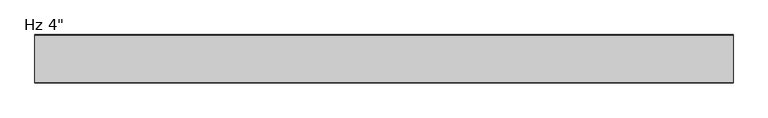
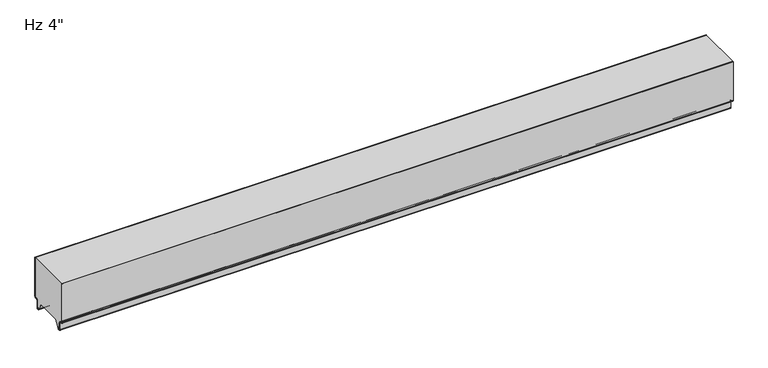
"""IFC4 building model written with IfcOpenShell, lengths in millimetres: plate geometry."""

from ifc_helpers import new_model, si_unit, frame, origin, place, context, project, spatial, polyline, circle_curve, source, transform, mapped, element, save
from ifc_brep_helpers import plane_surface, cylinder_surface, revolved_surface, advanced_brep


def plate_484589e4(model_context):
    return source(origin(), model_context, "Body", "AdvancedBrep", [
        advanced_brep(
        [(-730.0, -2.9776189, 3.8501063), (-730.0, -1.0007088, 5.8270163), (-730.0, -1.0007088, 94.95), (-730.0, 0.0, 94.95), (-730.0, 0.0, 5.8272211), (-730.0, -2.977286, 2.8499526), (-730.0, -5.2691698, 2.8499526), (-730.0, -8.2464384, -0.1273159), (-730.0, -8.2464384, -15.7237419), (-730.0, -9.8343149, -17.3116185), (-730.0, -12.9058636, -17.3116185), (-730.0, -14.4937401, -15.7237419), (-730.0, -14.4937401, -13.3687064), (-730.0, -13.4937365, -13.3687064), (-730.0, -13.4937365, -15.7237374), (-730.0, -12.9058654, -16.3116086), (-730.0, -9.834334, -16.3116086), (-730.0, -9.2464768, -15.7237514), (-730.0, -9.2464768, -0.1272391), (-730.0, -5.2691315, 3.8501063), (730.0, -2.9776189, 3.8501063), (730.0, -5.2691315, 3.8501063), (730.0, -9.2464768, -0.1272391), (730.0, -9.2464768, -15.7237514), (730.0, -9.834334, -16.3116086), (730.0, -12.9058654, -16.3116086), (730.0, -13.4937365, -15.7237374), (730.0, -13.4937365, -13.3687064), (730.0, -14.4937401, -13.3687064), (730.0, -14.4937401, -15.7237419), (730.0, -12.9058636, -17.3116185), (730.0, -9.8343149, -17.3116185), (730.0, -8.2464384, -15.7237419), (730.0, -8.2464384, -0.1273159), (730.0, -5.2691698, 2.8499526), (730.0, -2.977286, 2.8499526), (730.0, -1.75e-05, 5.8272211), (730.0, 0.0, 94.95), (730.0, -1.0007088, 94.95), (730.0, -1.0007088, 5.8270163)],
        [
            (0, 1, circle_curve(frame((-730.0, -2.9776189, 5.8270163), z_axis=(1.0, 0.0, 0.0), x_axis=(0.0, 1.0, 0.0)), 1.9769101)),
            (1, 2),
            (2, 3),
            (3, 4),
            (4, 5, circle_curve(frame((-730.0, -2.977286, 5.8272211), z_axis=(-1.0, 0.0, 0.0), x_axis=(0.0, 1.0, 0.0)), 2.9772685)),
            (5, 6),
            (6, 7, circle_curve(frame((-730.0, -5.2691698, -0.1273159), z_axis=(1.0, 0.0, 0.0), x_axis=(0.0, 1.0, 0.0)), 2.9772685)),
            (7, 8),
            (8, 9, circle_curve(frame((-730.0, -9.8343149, -15.7237419), z_axis=(-1.0, 0.0, 0.0), x_axis=(0.0, 1.0, 0.0)), 1.5878765)),
            (9, 10),
            (10, 11, circle_curve(frame((-730.0, -12.9058636, -15.7237419), z_axis=(-1.0, 0.0, 0.0), x_axis=(0.0, 1.0, 0.0)), 1.5878765)),
            (11, 12),
            (12, 13),
            (13, 14),
            (14, 15, circle_curve(frame((-730.0, -12.9058654, -15.7237374), z_axis=(1.0, 0.0, 0.0), x_axis=(0.0, 1.0, 0.0)), 0.5878711)),
            (15, 16),
            (16, 17, circle_curve(frame((-730.0, -9.834334, -15.7237514), z_axis=(1.0, 0.0, 0.0), x_axis=(0.0, 1.0, 0.0)), 0.5878572)),
            (17, 18),
            (18, 19, circle_curve(frame((-730.0, -5.2691315, -0.1272391), z_axis=(-1.0, 0.0, 0.0), x_axis=(0.0, 1.0, 0.0)), 3.9773454)),
            (19, 0),
            (20, 21),
            (21, 22, circle_curve(frame((730.0, -5.2691315, -0.1272391), z_axis=(1.0, 0.0, 0.0), x_axis=(0.0, 1.0, 0.0)), 3.9773454)),
            (22, 23),
            (23, 24, circle_curve(frame((730.0, -9.834334, -15.7237514), z_axis=(-1.0, 0.0, 0.0), x_axis=(0.0, 1.0, 0.0)), 0.5878572)),
            (24, 25),
            (25, 26, circle_curve(frame((730.0, -12.9058654, -15.7237374), z_axis=(-1.0, 0.0, 0.0), x_axis=(0.0, 1.0, 0.0)), 0.5878711)),
            (26, 27),
            (27, 28),
            (28, 29),
            (29, 30, circle_curve(frame((730.0, -12.9058636, -15.7237419), z_axis=(1.0, 0.0, 0.0), x_axis=(0.0, 1.0, 0.0)), 1.5878765)),
            (30, 31),
            (31, 32, circle_curve(frame((730.0, -9.8343149, -15.7237419), z_axis=(1.0, 0.0, 0.0), x_axis=(0.0, 1.0, 0.0)), 1.5878765)),
            (32, 33),
            (33, 34, circle_curve(frame((730.0, -5.2691698, -0.1273159), z_axis=(-1.0, 0.0, 0.0), x_axis=(0.0, 1.0, 0.0)), 2.9772685)),
            (34, 35),
            (35, 36, circle_curve(frame((730.0, -2.977286, 5.8272211), z_axis=(1.0, 0.0, 0.0), x_axis=(0.0, 1.0, 0.0)), 2.9772685)),
            (36, 37),
            (37, 38),
            (38, 39),
            (39, 20, circle_curve(frame((730.0, -2.9776189, 5.8270163), z_axis=(-1.0, 0.0, 0.0), x_axis=(0.0, 1.0, 0.0)), 1.9769101)),
            (2, 38),
            (37, 3),
            (19, 21),
            (20, 0),
            (18, 22),
            (17, 23),
            (16, 24),
            (15, 25),
            (14, 26),
            (13, 27),
            (12, 28),
            (11, 29),
            (10, 30),
            (9, 31),
            (8, 32),
            (7, 33),
            (6, 34),
            (5, 35),
            (4, 36),
            (1, 39),
        ],
        [
            plane_surface(frame((-730.0, 0.0, 576.2625), z_axis=(-1.0, 0.0, 0.0), x_axis=(0.0, 1.0, 0.0))),
            plane_surface(frame((730.0, 0.0, 576.2625), z_axis=(1.0, 0.0, 0.0), x_axis=(0.0, 1.0, 0.0))),
            plane_surface(frame((730.0, 10.0, 94.95), z_axis=(0.0, 0.0, 1.0), x_axis=(-1.0, 0.0, 0.0))),
            plane_surface(frame((-730.0, -2.9776189, 3.8501063), z_axis=(0.0, 0.0, 1.0), x_axis=(1.0, 0.0, 0.0))),
            cylinder_surface(frame((-730.0, -5.2691315, -0.1272391), z_axis=(-1.0, 0.0, 0.0), x_axis=(0.0, 1.0, 0.0)), 3.9773454),
            plane_surface(frame((-730.0, -9.2464768, -0.1272391), z_axis=(0.0, -1.0, 0.0), x_axis=(1.0, 0.0, 0.0))),
            revolved_surface(polyline([(730.0, -9.2464768, -15.7237514), (-730.0, -9.2464768, -15.7237514)]), (-730.0, -9.834334, -15.7237514), (1.0, 0.0, 0.0)),
            plane_surface(frame((-730.0, -9.834334, -16.3116086), z_axis=(0.0, 0.0, 1.0), x_axis=(1.0, 0.0, 0.0))),
            revolved_surface(polyline([(730.0, -12.3179943, -15.7237374), (-730.0, -12.3179943, -15.7237374)]), (-730.0, -12.9058654, -15.7237374), (1.0, 0.0, 0.0)),
            plane_surface(frame((-730.0, -13.4937365, -15.7237374), z_axis=(0.0, 1.0, 0.0), x_axis=(1.0, 0.0, 0.0))),
            plane_surface(frame((-730.0, -13.4937365, -13.3687064), z_axis=(0.0, 0.0, 1.0), x_axis=(1.0, 0.0, 0.0))),
            plane_surface(frame((-730.0, -14.4937401, -13.3687064), z_axis=(0.0, -1.0, 0.0), x_axis=(1.0, 0.0, 0.0))),
            cylinder_surface(frame((-730.0, -12.9058636, -15.7237419), z_axis=(-1.0, 0.0, 0.0), x_axis=(0.0, 1.0, 0.0)), 1.5878765),
            plane_surface(frame((-730.0, -12.9058636, -17.3116185), z_axis=(0.0, 0.0, -1.0), x_axis=(1.0, 0.0, 0.0))),
            cylinder_surface(frame((-730.0, -9.8343149, -15.7237419), z_axis=(-1.0, 0.0, 0.0), x_axis=(0.0, 1.0, 0.0)), 1.5878765),
            plane_surface(frame((-730.0, -8.2464384, -15.7237419), z_axis=(0.0, 1.0, 0.0), x_axis=(1.0, 0.0, 0.0))),
            revolved_surface(polyline([(730.0, -2.2919013, -0.1273159), (-730.0, -2.2919013, -0.1273159)]), (-730.0, -5.2691698, -0.1273159), (1.0, 0.0, 0.0)),
            plane_surface(frame((-730.0, -5.2691698, 2.8499526), z_axis=(0.0, 0.0, -1.0), x_axis=(1.0, 0.0, 0.0))),
            cylinder_surface(frame((-730.0, -2.977286, 5.8272211), z_axis=(-1.0, 0.0, 0.0), x_axis=(0.0, 1.0, 0.0)), 2.9772685),
            plane_surface(frame((-730.0, 0.0, 5.8272211), z_axis=(0.0, 1.0, 0.0), x_axis=(1.0, 0.0, 0.0))),
            plane_surface(frame((-730.0, -1.0007088, 1150.812837), z_axis=(0.0, -1.0, 0.0), x_axis=(1.0, 0.0, 0.0))),
            revolved_surface(polyline([(730.0, -1.0007088, 5.8270163), (-730.0, -1.0007088, 5.8270163)]), (-730.0, -2.9776189, 5.8270163), (1.0, 0.0, 0.0)),
        ],
        [
            (0, [[1, 2, 3, 4, 5, 6, 7, 8, 9, 10, 11, 12, 13, 14, 15, 16, 17, 18, 19, 20]]),
            (1, [[21, 22, 23, 24, 25, 26, 27, 28, 29, 30, 31, 32, 33, 34, 35, 36, 37, 38, 39, 40]]),
            (2, [[41, -38, 42, -3]]),
            (3, [[43, -21, 44, -20]]),
            (4, [[45, -22, -43, -19]]),
            (5, [[46, -23, -45, -18]]),
            (6, [[47, -24, -46, -17]]),
            (7, [[48, -25, -47, -16]]),
            (8, [[49, -26, -48, -15]]),
            (9, [[50, -27, -49, -14]]),
            (10, [[51, -28, -50, -13]]),
            (11, [[52, -29, -51, -12]]),
            (12, [[53, -30, -52, -11]]),
            (13, [[54, -31, -53, -10]]),
            (14, [[55, -32, -54, -9]]),
            (15, [[56, -33, -55, -8]]),
            (16, [[57, -34, -56, -7]]),
            (17, [[58, -35, -57, -6]]),
            (18, [[59, -36, -58, -5]]),
            (19, [[-4, -42, -37, -59]]),
            (20, [[-39, -41, -2, 60]]),
            (21, [[-44, -40, -60, -1]]),
        ],
    ),
        advanced_brep(
        [(-730.0, -98.6223811, 3.8501063), (-730.0, -96.3308685, 3.8501063), (-730.0, -92.3535232, -0.1272391), (-730.0, -92.3535232, -15.7237514), (-730.0, -91.765666, -16.3116086), (-730.0, -88.6941346, -16.3116086), (-730.0, -88.1062635, -15.7237374), (-730.0, -88.1062635, -13.3687064), (-730.0, -87.1062599, -13.3687064), (-730.0, -87.1062599, -15.7237419), (-730.0, -88.6941364, -17.3116185), (-730.0, -91.7656851, -17.3116185), (-730.0, -93.3535616, -15.7237419), (-730.0, -93.3535616, -0.1273159), (-730.0, -96.3308302, 2.8499526), (-730.0, -98.622714, 2.8499526), (-730.0, -101.5999825, 5.8272211), (-730.0, -101.6, 94.95), (-730.0, -100.5992912, 94.95), (-730.0, -100.5992912, 5.8270163), (730.0, -98.6223811, 3.8501063), (730.0, -100.5992912, 5.8270163), (730.0, -100.5992912, 94.95), (730.0, -101.6, 94.95), (730.0, -101.6, 5.8272211), (730.0, -98.622714, 2.8499526), (730.0, -96.3308302, 2.8499526), (730.0, -93.3535616, -0.1273159), (730.0, -93.3535616, -15.7237419), (730.0, -91.7656851, -17.3116185), (730.0, -88.6941364, -17.3116185), (730.0, -87.1062599, -15.7237419), (730.0, -87.1062599, -13.3687064), (730.0, -88.1062635, -13.3687064), (730.0, -88.1062635, -15.7237374), (730.0, -88.6941346, -16.3116086), (730.0, -91.765666, -16.3116086), (730.0, -92.3535232, -15.7237514), (730.0, -92.3535232, -0.1272391), (730.0, -96.3308685, 3.8501063)],
        [
            (0, 1),
            (1, 2, circle_curve(frame((-730.0, -96.3308685, -0.1272391), z_axis=(-1.0, 0.0, 0.0), x_axis=(0.0, 0.0, -1.0)), 3.9773454)),
            (2, 3),
            (3, 4, circle_curve(frame((-730.0, -91.765666, -15.7237514), z_axis=(1.0, 0.0, 0.0), x_axis=(0.0, 0.0, -1.0)), 0.5878572)),
            (4, 5),
            (5, 6, circle_curve(frame((-730.0, -88.6941346, -15.7237374), z_axis=(1.0, 0.0, 0.0), x_axis=(0.0, 0.0, -1.0)), 0.5878711)),
            (6, 7),
            (7, 8),
            (8, 9),
            (9, 10, circle_curve(frame((-730.0, -88.6941364, -15.7237419), z_axis=(-1.0, 0.0, 0.0), x_axis=(0.0, 0.0, -1.0)), 1.5878765)),
            (10, 11),
            (11, 12, circle_curve(frame((-730.0, -91.7656851, -15.7237419), z_axis=(-1.0, 0.0, 0.0), x_axis=(0.0, 0.0, -1.0)), 1.5878765)),
            (12, 13),
            (13, 14, circle_curve(frame((-730.0, -96.3308302, -0.1273159), z_axis=(1.0, 0.0, 0.0), x_axis=(0.0, 0.0, -1.0)), 2.9772685)),
            (14, 15),
            (15, 16, circle_curve(frame((-730.0, -98.622714, 5.8272211), z_axis=(-1.0, 0.0, 0.0), x_axis=(0.0, 0.0, -1.0)), 2.9772685)),
            (16, 17),
            (17, 18),
            (18, 19),
            (19, 0, circle_curve(frame((-730.0, -98.6223811, 5.8270163), z_axis=(1.0, 0.0, 0.0), x_axis=(0.0, 0.0, -1.0)), 1.9769101)),
            (20, 21, circle_curve(frame((730.0, -98.6223811, 5.8270163), z_axis=(-1.0, 0.0, 0.0), x_axis=(0.0, 0.0, -1.0)), 1.9769101)),
            (21, 22),
            (22, 23),
            (23, 24),
            (24, 25, circle_curve(frame((730.0, -98.622714, 5.8272211), z_axis=(1.0, 0.0, 0.0), x_axis=(0.0, 0.0, -1.0)), 2.9772685)),
            (25, 26),
            (26, 27, circle_curve(frame((730.0, -96.3308302, -0.1273159), z_axis=(-1.0, 0.0, 0.0), x_axis=(0.0, 0.0, -1.0)), 2.9772685)),
            (27, 28),
            (28, 29, circle_curve(frame((730.0, -91.7656851, -15.7237419), z_axis=(1.0, 0.0, 0.0), x_axis=(0.0, 0.0, -1.0)), 1.5878765)),
            (29, 30),
            (30, 31, circle_curve(frame((730.0, -88.6941364, -15.7237419), z_axis=(1.0, 0.0, 0.0), x_axis=(0.0, 0.0, -1.0)), 1.5878765)),
            (31, 32),
            (32, 33),
            (33, 34),
            (34, 35, circle_curve(frame((730.0, -88.6941346, -15.7237374), z_axis=(-1.0, 0.0, 0.0), x_axis=(0.0, 0.0, -1.0)), 0.5878711)),
            (35, 36),
            (36, 37, circle_curve(frame((730.0, -91.765666, -15.7237514), z_axis=(-1.0, 0.0, 0.0), x_axis=(0.0, 0.0, -1.0)), 0.5878572)),
            (37, 38),
            (38, 39, circle_curve(frame((730.0, -96.3308685, -0.1272391), z_axis=(1.0, 0.0, 0.0), x_axis=(0.0, 0.0, -1.0)), 3.9773454)),
            (39, 20),
            (17, 23),
            (22, 18),
            (19, 21),
            (20, 0),
            (16, 24),
            (15, 25),
            (14, 26),
            (13, 27),
            (12, 28),
            (11, 29),
            (10, 30),
            (9, 31),
            (8, 32),
            (7, 33),
            (6, 34),
            (5, 35),
            (4, 36),
            (3, 37),
            (2, 38),
            (1, 39),
        ],
        [
            plane_surface(frame((-730.0, -101.6, 576.2625), z_axis=(-1.0, 0.0, 0.0), x_axis=(0.0, -1.0, 0.0))),
            plane_surface(frame((730.0, -101.6, 576.2625), z_axis=(1.0, 0.0, 0.0), x_axis=(0.0, -1.0, 0.0))),
            plane_surface(frame((730.0, 10.0, 94.95), z_axis=(0.0, 0.0, 1.0), x_axis=(-1.0, 0.0, 0.0))),
            revolved_surface(polyline([(730.0, -98.6223811, 3.8501062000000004), (-730.0, -98.6223811, 3.8501062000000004)]), (-730.0, -98.6223811, 5.8270163), (1.0, 0.0, 0.0)),
            plane_surface(frame((-730.0, -100.5992912, 5.8270163), z_axis=(0.0, 1.0, 0.0), x_axis=(1.0, 0.0, 0.0))),
            plane_surface(frame((-730.0, -101.6, 1150.8100652), z_axis=(0.0, -1.0, 0.0), x_axis=(1.0, 0.0, 0.0))),
            cylinder_surface(frame((-730.0, -98.622714, 5.8272211), z_axis=(-1.0, 0.0, 0.0), x_axis=(0.0, 0.0, -1.0)), 2.9772685),
            plane_surface(frame((-730.0, -98.622714, 2.8499526), z_axis=(0.0, 0.0, -1.0), x_axis=(1.0, 0.0, 0.0))),
            revolved_surface(polyline([(730.0, -96.3308302, -3.1045844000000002), (-730.0, -96.3308302, -3.1045844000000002)]), (-730.0, -96.3308302, -0.1273159), (1.0, 0.0, 0.0)),
            plane_surface(frame((-730.0, -93.3535616, -0.1273159), z_axis=(0.0, -1.0, 0.0), x_axis=(1.0, 0.0, 0.0))),
            cylinder_surface(frame((-730.0, -91.7656851, -15.7237419), z_axis=(-1.0, 0.0, 0.0), x_axis=(0.0, 0.0, -1.0)), 1.5878765),
            plane_surface(frame((-730.0, -91.7656851, -17.3116185), z_axis=(0.0, 0.0, -1.0), x_axis=(1.0, 0.0, 0.0))),
            cylinder_surface(frame((-730.0, -88.6941364, -15.7237419), z_axis=(-1.0, 0.0, 0.0), x_axis=(0.0, 0.0, -1.0)), 1.5878765),
            plane_surface(frame((-730.0, -87.1062599, -15.7237419), z_axis=(0.0, 1.0, 0.0), x_axis=(1.0, 0.0, 0.0))),
            plane_surface(frame((-730.0, -87.1062599, -13.3687064), z_axis=(0.0, 0.0, 1.0), x_axis=(1.0, 0.0, 0.0))),
            plane_surface(frame((-730.0, -88.1062635, -13.3687064), z_axis=(0.0, -1.0, 0.0), x_axis=(1.0, 0.0, 0.0))),
            revolved_surface(polyline([(730.0, -88.6941346, -16.3116085), (-730.0, -88.6941346, -16.3116085)]), (-730.0, -88.6941346, -15.7237374), (1.0, 0.0, 0.0)),
            plane_surface(frame((-730.0, -88.6941346, -16.3116086), z_axis=(0.0, 0.0, 1.0), x_axis=(1.0, 0.0, 0.0))),
            revolved_surface(polyline([(730.0, -91.765666, -16.3116086), (-730.0, -91.765666, -16.3116086)]), (-730.0, -91.765666, -15.7237514), (1.0, 0.0, 0.0)),
            plane_surface(frame((-730.0, -92.3535232, -15.7237514), z_axis=(0.0, 1.0, 0.0), x_axis=(1.0, 0.0, 0.0))),
            cylinder_surface(frame((-730.0, -96.3308685, -0.1272391), z_axis=(-1.0, 0.0, 0.0), x_axis=(0.0, 0.0, -1.0)), 3.9773454),
            plane_surface(frame((-730.0, -96.3308685, 3.8501063), z_axis=(0.0, 0.0, 1.0), x_axis=(1.0, 0.0, 0.0))),
        ],
        [
            (0, [[1, 2, 3, 4, 5, 6, 7, 8, 9, 10, 11, 12, 13, 14, 15, 16, 17, 18, 19, 20]]),
            (1, [[21, 22, 23, 24, 25, 26, 27, 28, 29, 30, 31, 32, 33, 34, 35, 36, 37, 38, 39, 40]]),
            (2, [[41, -23, 42, -18]]),
            (3, [[43, -21, 44, -20]]),
            (4, [[-19, -42, -22, -43]]),
            (5, [[-24, -41, -17, 45]]),
            (6, [[46, -25, -45, -16]]),
            (7, [[47, -26, -46, -15]]),
            (8, [[48, -27, -47, -14]]),
            (9, [[49, -28, -48, -13]]),
            (10, [[50, -29, -49, -12]]),
            (11, [[51, -30, -50, -11]]),
            (12, [[52, -31, -51, -10]]),
            (13, [[53, -32, -52, -9]]),
            (14, [[54, -33, -53, -8]]),
            (15, [[55, -34, -54, -7]]),
            (16, [[56, -35, -55, -6]]),
            (17, [[57, -36, -56, -5]]),
            (18, [[58, -37, -57, -4]]),
            (19, [[59, -38, -58, -3]]),
            (20, [[60, -39, -59, -2]]),
            (21, [[-44, -40, -60, -1]]),
        ],
    ),
        advanced_brep(
        [(-730.0, -98.6227194, 3.8499499), (-730.0, -100.5999935, 5.8272239), (-730.0, -100.6, 94.95), (-730.0, -1.0, 94.95), (-730.0, -1.0, 5.8272239), (-730.0, -2.9772806, 3.8499499), (-730.0, -5.2691705, 3.8499499), (-730.0, -9.2464377, -0.1273173), (-730.0, -9.2464377, -15.7237417), (-730.0, -9.8343146, -16.3116186), (-730.0, -12.9058635, -16.3116186), (-730.0, -13.4937402, -15.723742), (-730.0, -13.4937402, -13.3687064), (-730.0, -14.4937402, -13.3687064), (-730.0, -14.4937402, -15.6582851), (-730.0, -23.7509135, 0.0), (-730.0, -77.8490865, 0.0), (-730.0, -87.1062598, -15.6582851), (-730.0, -87.1062598, -13.3687064), (-730.0, -88.1062598, -13.3687064), (-730.0, -88.1062598, -15.723742), (-730.0, -88.6941365, -16.3116186), (-730.0, -91.7656854, -16.3116186), (-730.0, -92.3535623, -15.7237417), (-730.0, -92.3535623, -0.1273173), (-730.0, -96.3308295, 3.8499499), (730.0, -98.6227194, 3.8499499), (730.0, -96.3308295, 3.8499499), (730.0, -92.3535623, -0.1273173), (730.0, -92.3535623, -15.7237417), (730.0, -91.7656854, -16.3116186), (730.0, -88.6941365, -16.3116186), (730.0, -88.1062598, -15.723742), (730.0, -88.1062598, -13.3687064), (730.0, -87.1062598, -13.3687064), (730.0, -87.1062598, -15.6582851), (730.0, -77.8490865, 0.0), (730.0, -23.7509179, 0.0), (730.0, -14.4937402, -15.6582851), (730.0, -14.4937402, -13.3687064), (730.0, -13.4937402, -13.3687064), (730.0, -13.4937402, -15.723742), (730.0, -12.9058635, -16.3116186), (730.0, -9.8343146, -16.3116186), (730.0, -9.2464377, -15.7237417), (730.0, -9.2464377, -0.1273173), (730.0, -5.2691705, 3.8499499), (730.0, -2.9772806, 3.8499499), (730.0, -1.0000065, 5.8272239), (730.0, -1.0, 94.95), (730.0, -100.6, 94.95), (730.0, -100.6, 5.8272239)],
        [
            (0, 1, circle_curve(frame((-730.0, -98.6227194, 5.8272239), z_axis=(-1.0, 0.0, 0.0), x_axis=(0.0, 0.0, -1.0)), 1.977274)),
            (1, 2),
            (2, 3),
            (3, 4),
            (4, 5, circle_curve(frame((-730.0, -2.9772806, 5.8272239), z_axis=(-1.0, 0.0, 0.0), x_axis=(0.0, 1.0, 0.0)), 1.977274)),
            (5, 6),
            (6, 7, circle_curve(frame((-730.0, -5.2691705, -0.1273173), z_axis=(1.0, 0.0, 0.0), x_axis=(0.0, 1.0, 0.0)), 3.9772671)),
            (7, 8),
            (8, 9, circle_curve(frame((-730.0, -9.8343146, -15.7237417), z_axis=(-1.0, 0.0, 0.0), x_axis=(0.0, 1.0, 0.0)), 0.5878769)),
            (9, 10),
            (10, 11, circle_curve(frame((-730.0, -12.9058635, -15.723742), z_axis=(-1.0, 0.0, 0.0), x_axis=(0.0, 1.0, 0.0)), 0.5878766)),
            (11, 12),
            (12, 13),
            (13, 14),
            (14, 15),
            (15, 16),
            (16, 17),
            (17, 18),
            (18, 19),
            (19, 20),
            (20, 21, circle_curve(frame((-730.0, -88.6941365, -15.723742), z_axis=(-1.0, 0.0, 0.0), x_axis=(0.0, 0.0, -1.0)), 0.5878766)),
            (21, 22),
            (22, 23, circle_curve(frame((-730.0, -91.7656854, -15.7237417), z_axis=(-1.0, 0.0, 0.0), x_axis=(0.0, 0.0, -1.0)), 0.5878769)),
            (23, 24),
            (24, 25, circle_curve(frame((-730.0, -96.3308295, -0.1273173), z_axis=(1.0, 0.0, 0.0), x_axis=(0.0, 0.0, -1.0)), 3.9772671)),
            (25, 0),
            (26, 27),
            (27, 28, circle_curve(frame((730.0, -96.3308295, -0.1273173), z_axis=(-1.0, 0.0, 0.0), x_axis=(0.0, 0.0, -1.0)), 3.9772671)),
            (28, 29),
            (29, 30, circle_curve(frame((730.0, -91.7656854, -15.7237417), z_axis=(1.0, 0.0, 0.0), x_axis=(0.0, 0.0, -1.0)), 0.5878769)),
            (30, 31),
            (31, 32, circle_curve(frame((730.0, -88.6941365, -15.723742), z_axis=(1.0, 0.0, 0.0), x_axis=(0.0, 0.0, -1.0)), 0.5878766)),
            (32, 33),
            (33, 34),
            (34, 35),
            (35, 36),
            (36, 37),
            (37, 38),
            (38, 39),
            (39, 40),
            (40, 41),
            (41, 42, circle_curve(frame((730.0, -12.9058635, -15.723742), z_axis=(1.0, 0.0, 0.0), x_axis=(0.0, 1.0, 0.0)), 0.5878766)),
            (42, 43),
            (43, 44, circle_curve(frame((730.0, -9.8343146, -15.7237417), z_axis=(1.0, 0.0, 0.0), x_axis=(0.0, 1.0, 0.0)), 0.5878769)),
            (44, 45),
            (45, 46, circle_curve(frame((730.0, -5.2691705, -0.1273173), z_axis=(-1.0, 0.0, 0.0), x_axis=(0.0, 1.0, 0.0)), 3.9772671)),
            (46, 47),
            (47, 48, circle_curve(frame((730.0, -2.9772806, 5.8272239), z_axis=(1.0, 0.0, 0.0), x_axis=(0.0, 1.0, 0.0)), 1.977274)),
            (48, 49),
            (49, 50),
            (50, 51),
            (51, 26, circle_curve(frame((730.0, -98.6227194, 5.8272239), z_axis=(1.0, 0.0, 0.0), x_axis=(0.0, 0.0, -1.0)), 1.977274)),
            (36, 16),
            (15, 37),
            (2, 50),
            (49, 3),
            (25, 27),
            (26, 0),
            (24, 28),
            (23, 29),
            (22, 30),
            (21, 31),
            (20, 32),
            (19, 33),
            (18, 34),
            (17, 35),
            (1, 51),
            (4, 48),
            (47, 5),
            (14, 38),
            (13, 39),
            (12, 40),
            (11, 41),
            (10, 42),
            (9, 43),
            (8, 44),
            (7, 45),
            (6, 46),
        ],
        [
            plane_surface(frame((-730.0, -100.6, 576.2625), z_axis=(-1.0, 0.0, 0.0), x_axis=(0.0, -1.0, 0.0))),
            plane_surface(frame((730.0, -100.6, 576.2625), z_axis=(1.0, 0.0, 0.0), x_axis=(0.0, -1.0, 0.0))),
            plane_surface(frame((-730.0, -77.8490865, 0.0), z_axis=(0.0, 0.0, -1.0), x_axis=(1.0, 0.0, 0.0))),
            plane_surface(frame((730.0, 10.0, 94.95), z_axis=(0.0, 0.0, 1.0), x_axis=(-1.0, 0.0, 0.0))),
            plane_surface(frame((-730.0, -98.6227194, 3.8499499), z_axis=(0.0, 0.0, -1.0), x_axis=(1.0, 0.0, 0.0))),
            revolved_surface(polyline([(730.0, -96.3308295, -4.1045844), (-730.0, -96.3308295, -4.1045844)]), (-730.0, -96.3308295, -0.1273173), (1.0, 0.0, 0.0)),
            plane_surface(frame((-730.0, -92.3535623, -0.1273173), z_axis=(0.0, -1.0, 0.0), x_axis=(1.0, 0.0, 0.0))),
            cylinder_surface(frame((-730.0, -91.7656854, -15.7237417), z_axis=(-1.0, 0.0, 0.0), x_axis=(0.0, 0.0, -1.0)), 0.5878769),
            plane_surface(frame((-730.0, -91.7656854, -16.3116186), z_axis=(0.0, 0.0, -1.0), x_axis=(1.0, 0.0, 0.0))),
            cylinder_surface(frame((-730.0, -88.6941365, -15.723742), z_axis=(-1.0, 0.0, 0.0), x_axis=(0.0, 0.0, -1.0)), 0.5878766),
            plane_surface(frame((-730.0, -88.1062598, -15.723742), z_axis=(0.0, 1.0, 0.0), x_axis=(1.0, 0.0, 0.0))),
            plane_surface(frame((-730.0, -88.1062598, -13.3687064), z_axis=(0.0, 0.0, -1.0), x_axis=(1.0, 0.0, 0.0))),
            plane_surface(frame((-730.0, -87.1062598, -13.3687064), z_axis=(0.0, -1.0, 0.0), x_axis=(1.0, 0.0, 0.0))),
            plane_surface(frame((-730.0, -87.1062598, -15.6582851), z_axis=(0.0, 0.8608169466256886, -0.5089147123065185), x_axis=(1.0, 0.0, 0.0))),
            plane_surface(frame((-730.0, -100.6, 1150.8100652), z_axis=(0.0, -1.0, 0.0), x_axis=(1.0, 0.0, 0.0))),
            cylinder_surface(frame((-730.0, -98.6227194, 5.8272239), z_axis=(-1.0, 0.0, 0.0), x_axis=(0.0, 0.0, -1.0)), 1.977274),
            cylinder_surface(frame((-730.0, -2.9772806, 5.8272239), z_axis=(-1.0, 0.0, 0.0), x_axis=(0.0, 1.0, 0.0)), 1.977274),
            plane_surface(frame((-730.0, -1.0, 5.8272239), z_axis=(0.0, 1.0, 0.0), x_axis=(1.0, 0.0, 0.0))),
            plane_surface(frame((-730.0, -23.7509135, 0.0), z_axis=(0.0, -0.8608169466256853, -0.5089147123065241), x_axis=(1.0, 0.0, 0.0))),
            plane_surface(frame((-730.0, -14.4937402, -15.6582851), z_axis=(0.0, 1.0, 0.0), x_axis=(1.0, 0.0, 0.0))),
            plane_surface(frame((-730.0, -14.4937402, -13.3687064), z_axis=(0.0, 0.0, -1.0), x_axis=(1.0, 0.0, 0.0))),
            plane_surface(frame((-730.0, -13.4937402, -13.3687064), z_axis=(0.0, -1.0, 0.0), x_axis=(1.0, 0.0, 0.0))),
            cylinder_surface(frame((-730.0, -12.9058635, -15.723742), z_axis=(-1.0, 0.0, 0.0), x_axis=(0.0, 1.0, 0.0)), 0.5878766),
            plane_surface(frame((-730.0, -12.9058635, -16.3116186), z_axis=(0.0, 0.0, -1.0), x_axis=(1.0, 0.0, 0.0))),
            cylinder_surface(frame((-730.0, -9.8343146, -15.7237417), z_axis=(-1.0, 0.0, 0.0), x_axis=(0.0, 1.0, 0.0)), 0.5878769),
            plane_surface(frame((-730.0, -9.2464377, -15.7237417), z_axis=(0.0, 1.0, 0.0), x_axis=(1.0, 0.0, 0.0))),
            revolved_surface(polyline([(730.0, -1.2919034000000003, -0.1273173), (-730.0, -1.2919034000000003, -0.1273173)]), (-730.0, -5.2691705, -0.1273173), (1.0, 0.0, 0.0)),
            plane_surface(frame((-730.0, -5.2691705, 3.8499499), z_axis=(0.0, 0.0, -1.0), x_axis=(1.0, 0.0, 0.0))),
        ],
        [
            (0, [[1, 2, 3, 4, 5, 6, 7, 8, 9, 10, 11, 12, 13, 14, 15, 16, 17, 18, 19, 20, 21, 22, 23, 24, 25, 26]]),
            (1, [[27, 28, 29, 30, 31, 32, 33, 34, 35, 36, 37, 38, 39, 40, 41, 42, 43, 44, 45, 46, 47, 48, 49, 50, 51, 52]]),
            (2, [[53, -16, 54, -37]]),
            (3, [[55, -50, 56, -3]]),
            (4, [[57, -27, 58, -26]]),
            (5, [[59, -28, -57, -25]]),
            (6, [[60, -29, -59, -24]]),
            (7, [[61, -30, -60, -23]]),
            (8, [[62, -31, -61, -22]]),
            (9, [[63, -32, -62, -21]]),
            (10, [[64, -33, -63, -20]]),
            (11, [[65, -34, -64, -19]]),
            (12, [[66, -35, -65, -18]]),
            (13, [[-53, -36, -66, -17]]),
            (14, [[-51, -55, -2, 67]]),
            (15, [[-58, -52, -67, -1]]),
            (16, [[68, -48, 69, -5]]),
            (17, [[-4, -56, -49, -68]]),
            (18, [[70, -38, -54, -15]]),
            (19, [[71, -39, -70, -14]]),
            (20, [[72, -40, -71, -13]]),
            (21, [[73, -41, -72, -12]]),
            (22, [[74, -42, -73, -11]]),
            (23, [[75, -43, -74, -10]]),
            (24, [[76, -44, -75, -9]]),
            (25, [[77, -45, -76, -8]]),
            (26, [[78, -46, -77, -7]]),
            (27, [[-69, -47, -78, -6]]),
        ],
    ),
    ])


if __name__ == "__main__":
    model = new_model("IFC4")
    model_context = context("Model", 3, world=origin())
    ifc_project = project(units=[si_unit("LENGTHUNIT", "METRE", prefix="MILLI")], contexts=[model_context])
    site = spatial("IfcSite", under=ifc_project)
    building = spatial("IfcBuilding", under=site)
    placement = place(None, origin())
    plate_shape = plate_484589e4(model_context)
    element("IfcPlate", 1, ObjectType="KIP-SLI-FLI-R19-CP-Hz-FL_FL : Hz 4\"", at=placement, inside=building, context=model_context, shape_type="MappedRepresentation", body=[
        mapped(plate_shape, transform((0.0, 0.0, 0.0), x_axis=(1.0, 0.0, 0.0), y_axis=(0.0, 1.0, 0.0), z_axis=(0.0, 0.0, 1.0))),
    ])
    save(model, "model.ifc")
